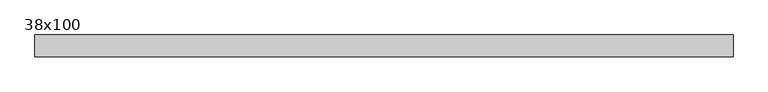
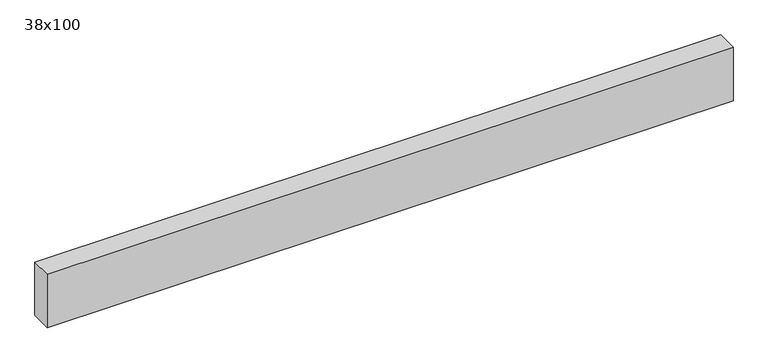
"""IFC4 building model written with IfcOpenShell, lengths in millimetres: beam geometry, Poutre - Bois de construction de dimensions courantes : 38x100."""

from ifc_helpers import new_model, si_unit, frame, origin, place, context, project, spatial, polyline, outline, extrude, source, transform, mapped, element, save


def beam_38x100_61ba3783(model_context):
    return source(origin(), model_context, "Body", "SweptSolid", [
        extrude(outline(polyline([(608.0, 19.05), (608.0, -19.05), (-608.0, -19.05), (-608.0, 19.05), (608.0, 19.05)])), frame((0.0, 0.0, -50.0), z_axis=(0.0, 0.0, 1.0), x_axis=(1.0, 0.0, 0.0)), (0.0, 0.0, 1.0), 100.0),
    ])


if __name__ == "__main__":
    model = new_model("IFC4")
    model_context = context("Model", 3, world=origin())
    ifc_project = project(units=[si_unit("LENGTHUNIT", "METRE", prefix="MILLI")], contexts=[model_context])
    site = spatial("IfcSite", under=ifc_project)
    building = spatial("IfcBuilding", under=site)
    placement = place(None, origin())
    beam_38x100_shape = beam_38x100_61ba3783(model_context)
    element("IfcBeam", 1, ObjectType="Poutre - Bois de construction de dimensions courantes : 38x100", at=placement, inside=building, context=model_context, shape_type="MappedRepresentation", body=[
        mapped(beam_38x100_shape, transform((0.0, 0.0, 0.0), x_axis=(1.0, 0.0, 0.0), y_axis=(0.0, 1.0, 0.0), z_axis=(0.0, 0.0, 1.0))),
    ])
    save(model, "model.ifc")
